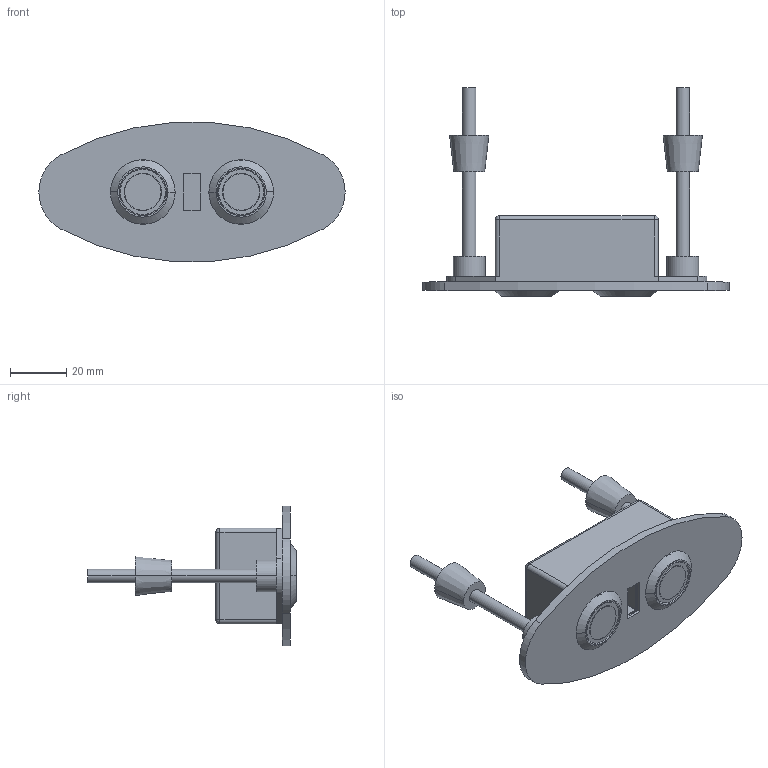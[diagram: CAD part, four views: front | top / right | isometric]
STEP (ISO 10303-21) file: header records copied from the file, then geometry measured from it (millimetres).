
FILE_DESCRIPTION((''),'2;1');
FILE_NAME('MSBR-1','2016-06-03T',('lily'),(''),'PRO/ENGINEER BY PARAMETRIC TECHNOLOGY CORPORATION, 2014200','PRO/ENGINEER BY PARAMETRIC TECHNOLOGY CORPORATION, 2014200','');
FILE_SCHEMA(('CONFIG_CONTROL_DESIGN'));
Length unit declared in the file: metre
Products named in the file (1): MSBR-1
Bounding box: 109 x 74.3 x 49.51 mm (x, y, z)
Volume: 45899 mm3; surface area: 32998.5 mm2
Topology: 1 solids, 3 shells, 206 faces, 524 edges, 356 vertices
Faces by surface type: cylinder 106, plane 88, cone 8, sphere 4
Entity records: 6414 total; most frequent: DIRECTION 1208, CARTESIAN_POINT 1082, ORIENTED_EDGE 1040, EDGE_CURVE 520, AXIS2_PLACEMENT_3D 482, VERTEX_POINT 356, CIRCLE 276, EDGE_LOOP 250
